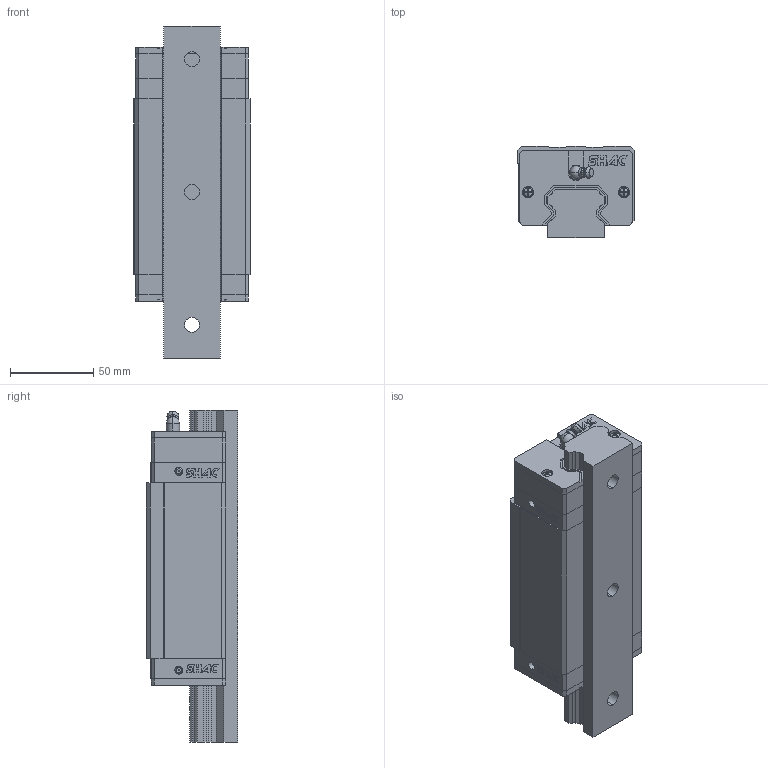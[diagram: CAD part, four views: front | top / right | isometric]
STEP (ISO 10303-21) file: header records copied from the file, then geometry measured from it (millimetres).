
FILE_DESCRIPTION (( 'STEP AP214' ), '1' );
FILE_NAME ('STP_GHH35HA_(E2)自润式_(R)上锁式_刮油片＋防尘条_200_200_1_GHH35HA_GHH35HA.step', '2020-06-27T08:36:29', ( 'IT Division' ), ( 'IT' ), 'SwSTEP 2.0', 'SolidWorks 2016', '' );
FILE_SCHEMA (( 'AUTOMOTIVE_DESIGN' ));
Length unit declared in the file: millimetre
Products named in the file (3): STP_GHH35HA_(E2)自润式_(R)上锁式_刮油片＋防尘条_200_200_1_GHH35HA_GHH35HA_1; STP_GHH35HA_(E2)自润式_(R)上锁式_刮油片＋防尘条_200_200_1_GHH35HA_GHH35HA; STP_GHH35HA_(E2)自润式_(R)上锁式_刮油片＋防尘条_200_200_1_GHH35HA_GHH35HA_2
Assembly tree (2 placements, depth 2):
  STP_GHH35HA_(E2)自润式_(R)上锁式_刮油片＋防尘条_200_200_1_GHH35HA_GHH35HA
    STP_GHH35HA_(E2)自润式_(R)上锁式_刮油片＋防尘条_200_200_1_GHH35HA_GHH35HA_1
    STP_GHH35HA_(E2)自润式_(R)上锁式_刮油片＋防尘条_200_200_1_GHH35HA_GHH35HA_2
Bounding box: 70 x 55 x 200 mm (x, y, z)
Volume: 558691.9 mm3; surface area: 104433.8 mm2
Topology: 8 solids, 8 shells, 855 faces, 2289 edges, 1502 vertices
Faces by surface type: plane 627, cylinder 162, cone 31, torus 25, sphere 10
Entity records: 29453 total; most frequent: CARTESIAN_POINT 4813, ORIENTED_EDGE 4554, DIRECTION 4434, EDGE_CURVE 2277, VECTOR 1768, LINE 1768, VERTEX_POINT 1500, AXIS2_PLACEMENT_3D 1333
